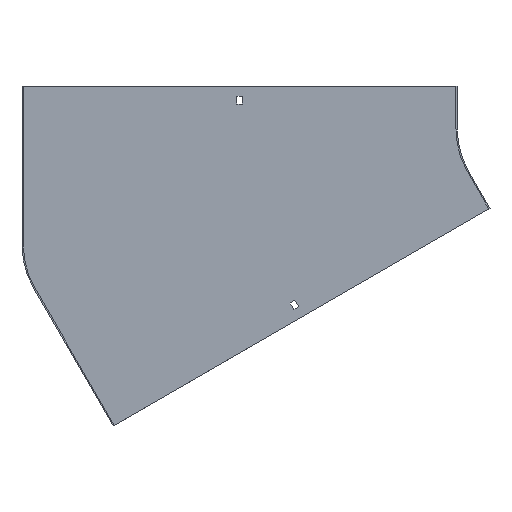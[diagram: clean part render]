
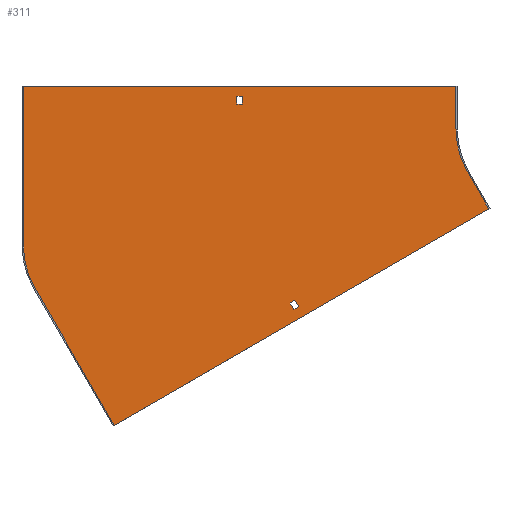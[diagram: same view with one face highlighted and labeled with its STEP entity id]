
A CAD part, front view. The second image highlights one B-rep face of the part: STEP entity #311.
In plain terms, the highlighted planar face has unit normal (0, -1, 0).
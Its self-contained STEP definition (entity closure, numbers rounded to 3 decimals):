
#2 = LINE ( 'NONE', #411, #21 ) ;
#11 = AXIS2_PLACEMENT_3D ( 'NONE', #192, #456, #723 ) ;
#19 = EDGE_LOOP ( 'NONE', ( #736, #415, #662, #837 ) ) ;
#21 = VECTOR ( 'NONE', #472, 1000. ) ;
#29 = FACE_BOUND ( 'NONE', #639, .T. ) ;
#30 = LINE ( 'NONE', #438, #626 ) ;
#38 = DIRECTION ( 'NONE',  ( 0.5, 0., -0.866 ) ) ;
#50 = VERTEX_POINT ( 'NONE', #228 ) ;
#51 = DIRECTION ( 'NONE',  ( -0.866, 0., -0.5 ) ) ;
#52 = CIRCLE ( 'NONE', #11, 100. ) ;
#53 = CARTESIAN_POINT ( 'NONE',  ( 14.5, -1.5, -25.115 ) ) ;
#61 = CARTESIAN_POINT ( 'NONE',  ( -283.026, -1.5, -207.284 ) ) ;
#68 = ORIENTED_EDGE ( 'NONE', *, *, #528, .T. ) ;
#80 = VERTEX_POINT ( 'NONE', #698 ) ;
#89 = DIRECTION ( 'NONE',  ( 0., 0., -1. ) ) ;
#96 = CARTESIAN_POINT ( 'NONE',  ( 19., -1.5, -32.909 ) ) ;
#97 = EDGE_CURVE ( 'NONE', #522, #296, #724, .T. ) ;
#113 = VERTEX_POINT ( 'NONE', #163 ) ;
#118 = CARTESIAN_POINT ( 'NONE',  ( -86.603, -1.5, -50. ) ) ;
#120 = LINE ( 'NONE', #340, #431 ) ;
#124 = VECTOR ( 'NONE', #564, 1000. ) ;
#126 = CARTESIAN_POINT ( 'NONE',  ( -100., -1.5, 0. ) ) ;
#128 = LINE ( 'NONE', #329, #859 ) ;
#131 = EDGE_CURVE ( 'NONE', #80, #146, #255, .T. ) ;
#139 = VECTOR ( 'NONE', #679, 1000. ) ;
#146 = VERTEX_POINT ( 'NONE', #520 ) ;
#147 = ORIENTED_EDGE ( 'NONE', *, *, #416, .T. ) ;
#162 = DIRECTION ( 'NONE',  ( 1., 0., 0. ) ) ;
#163 = CARTESIAN_POINT ( 'NONE',  ( -288.656, -1.5, -210.534 ) ) ;
#167 = CARTESIAN_POINT ( 'NONE',  ( -307.656, -1.5, -177.625 ) ) ;
#175 = LINE ( 'NONE', #374, #530 ) ;
#191 = EDGE_CURVE ( 'NONE', #392, #493, #175, .T. ) ;
#192 = CARTESIAN_POINT ( 'NONE',  ( -504., -1.5, -135.046 ) ) ;
#196 = EDGE_CURVE ( 'NONE', #146, #113, #384, .T. ) ;
#201 = ORIENTED_EDGE ( 'NONE', *, *, #743, .F. ) ;
#209 = VERTEX_POINT ( 'NONE', #443 ) ;
#224 = ORIENTED_EDGE ( 'NONE', *, *, #97, .F. ) ;
#228 = CARTESIAN_POINT ( 'NONE',  ( -61.603, -1.5, -93.301 ) ) ;
#233 = CARTESIAN_POINT ( 'NONE',  ( -86.603, -1.5, -50. ) ) ;
#237 = DIRECTION ( 'NONE',  ( 0., 0., -1. ) ) ;
#255 = LINE ( 'NONE', #53, #306 ) ;
#266 = VECTOR ( 'NONE', #51, 1000. ) ;
#286 = CARTESIAN_POINT ( 'NONE',  ( -498.079, -1.5, -345.301 ) ) ;
#292 = ORIENTED_EDGE ( 'NONE', *, *, #533, .F. ) ;
#296 = VERTEX_POINT ( 'NONE', #233 ) ;
#303 = PLANE ( 'NONE',  #419 ) ;
#306 = VECTOR ( 'NONE', #852, 1000. ) ;
#311 = ADVANCED_FACE ( 'NONE', ( #696, #636, #29 ), #303, .T. ) ;
#317 = ORIENTED_EDGE ( 'NONE', *, *, #550, .T. ) ;
#319 = ORIENTED_EDGE ( 'NONE', *, *, #435, .F. ) ;
#326 = EDGE_CURVE ( 'NONE', #50, #754, #733, .T. ) ;
#329 = CARTESIAN_POINT ( 'NONE',  ( -100., -1.5, 50. ) ) ;
#333 = ORIENTED_EDGE ( 'NONE', *, *, #326, .F. ) ;
#337 = VECTOR ( 'NONE', #855, 1000. ) ;
#340 = CARTESIAN_POINT ( 'NONE',  ( -498.079, -1.5, -345.301 ) ) ;
#341 = CARTESIAN_POINT ( 'NONE',  ( -348.75, -1.5, 38. ) ) ;
#349 = AXIS2_PLACEMENT_3D ( 'NONE', #776, #444, #621 ) ;
#371 = DIRECTION ( 'NONE',  ( 0.866, 0., 0.5 ) ) ;
#374 = CARTESIAN_POINT ( 'NONE',  ( 0., -1.5, 38. ) ) ;
#384 = LINE ( 'NONE', #167, #684 ) ;
#388 = DIRECTION ( 'NONE',  ( 0.5, 0., -0.866 ) ) ;
#392 = VERTEX_POINT ( 'NONE', #785 ) ;
#395 = LINE ( 'NONE', #814, #139 ) ;
#411 = CARTESIAN_POINT ( 'NONE',  ( -604., -1.5, -135.046 ) ) ;
#415 = ORIENTED_EDGE ( 'NONE', *, *, #549, .F. ) ;
#416 = EDGE_CURVE ( 'NONE', #594, #392, #464, .T. ) ;
#419 = AXIS2_PLACEMENT_3D ( 'NONE', #569, #830, #237 ) ;
#431 = VECTOR ( 'NONE', #728, 1000. ) ;
#435 = EDGE_CURVE ( 'NONE', #296, #50, #805, .T. ) ;
#438 = CARTESIAN_POINT ( 'NONE',  ( -348.75, -1.5, 0. ) ) ;
#441 = EDGE_CURVE ( 'NONE', #657, #80, #596, .T. ) ;
#442 = CARTESIAN_POINT ( 'NONE',  ( -590.603, -1.5, -185.046 ) ) ;
#443 = CARTESIAN_POINT ( 'NONE',  ( -100., -1.5, 50. ) ) ;
#444 = DIRECTION ( 'NONE',  ( 0., -1., 0. ) ) ;
#456 = DIRECTION ( 'NONE',  ( 0., 1., 0. ) ) ;
#464 = LINE ( 'NONE', #722, #601 ) ;
#472 = DIRECTION ( 'NONE',  ( 0., 0., 1. ) ) ;
#486 = ORIENTED_EDGE ( 'NONE', *, *, #686, .F. ) ;
#493 = VERTEX_POINT ( 'NONE', #341 ) ;
#503 = EDGE_CURVE ( 'NONE', #612, #669, #52, .T. ) ;
#508 = LINE ( 'NONE', #631, #124 ) ;
#517 = CARTESIAN_POINT ( 'NONE',  ( -348.75, -1.5, 29. ) ) ;
#520 = CARTESIAN_POINT ( 'NONE',  ( -293.156, -1.5, -202.74 ) ) ;
#522 = VERTEX_POINT ( 'NONE', #126 ) ;
#525 = DIRECTION ( 'NONE',  ( 0., 0., -1. ) ) ;
#528 = EDGE_CURVE ( 'NONE', #712, #594, #395, .T. ) ;
#530 = VECTOR ( 'NONE', #162, 1000. ) ;
#533 = EDGE_CURVE ( 'NONE', #611, #209, #508, .T. ) ;
#549 = EDGE_CURVE ( 'NONE', #113, #657, #766, .T. ) ;
#550 = EDGE_CURVE ( 'NONE', #493, #712, #30, .T. ) ;
#564 = DIRECTION ( 'NONE',  ( 1., 0., 0. ) ) ;
#569 = CARTESIAN_POINT ( 'NONE',  ( 0., -1.5, 0. ) ) ;
#577 = ORIENTED_EDGE ( 'NONE', *, *, #503, .F. ) ;
#594 = VERTEX_POINT ( 'NONE', #842 ) ;
#596 = LINE ( 'NONE', #734, #337 ) ;
#601 = VECTOR ( 'NONE', #664, 1000. ) ;
#611 = VERTEX_POINT ( 'NONE', #827 ) ;
#612 = VERTEX_POINT ( 'NONE', #442 ) ;
#614 = VECTOR ( 'NONE', #371, 1000. ) ;
#621 = DIRECTION ( 'NONE',  ( 0., 0., -1. ) ) ;
#626 = VECTOR ( 'NONE', #89, 1000. ) ;
#631 = CARTESIAN_POINT ( 'NONE',  ( -605.5, -1.5, 50. ) ) ;
#636 = FACE_OUTER_BOUND ( 'NONE', #779, .T. ) ;
#639 = EDGE_LOOP ( 'NONE', ( #680, #317, #68, #147 ) ) ;
#644 = ORIENTED_EDGE ( 'NONE', *, *, #757, .F. ) ;
#657 = VERTEX_POINT ( 'NONE', #61 ) ;
#662 = ORIENTED_EDGE ( 'NONE', *, *, #196, .F. ) ;
#664 = DIRECTION ( 'NONE',  ( 0., 0., 1. ) ) ;
#669 = VERTEX_POINT ( 'NONE', #796 ) ;
#679 = DIRECTION ( 'NONE',  ( -1., 0., 0. ) ) ;
#680 = ORIENTED_EDGE ( 'NONE', *, *, #191, .T. ) ;
#684 = VECTOR ( 'NONE', #38, 1000. ) ;
#686 = EDGE_CURVE ( 'NONE', #754, #612, #120, .T. ) ;
#696 = FACE_BOUND ( 'NONE', #19, .T. ) ;
#698 = CARTESIAN_POINT ( 'NONE',  ( -287.526, -1.5, -199.49 ) ) ;
#709 = VECTOR ( 'NONE', #388, 1000. ) ;
#712 = VERTEX_POINT ( 'NONE', #517 ) ;
#716 = CARTESIAN_POINT ( 'NONE',  ( -60.304, -1.5, -92.551 ) ) ;
#722 = CARTESIAN_POINT ( 'NONE',  ( -355.25, -1.5, 0. ) ) ;
#723 = DIRECTION ( 'NONE',  ( 0., 0., -1. ) ) ;
#724 = CIRCLE ( 'NONE', #349, 100. ) ;
#728 = DIRECTION ( 'NONE',  ( -0.5, 0., 0.866 ) ) ;
#733 = LINE ( 'NONE', #716, #266 ) ;
#734 = CARTESIAN_POINT ( 'NONE',  ( -302.026, -1.5, -174.375 ) ) ;
#736 = ORIENTED_EDGE ( 'NONE', *, *, #441, .F. ) ;
#743 = EDGE_CURVE ( 'NONE', #209, #522, #128, .T. ) ;
#754 = VERTEX_POINT ( 'NONE', #286 ) ;
#757 = EDGE_CURVE ( 'NONE', #669, #611, #2, .T. ) ;
#766 = LINE ( 'NONE', #96, #614 ) ;
#776 = CARTESIAN_POINT ( 'NONE',  ( 0., -1.5, 0. ) ) ;
#779 = EDGE_LOOP ( 'NONE', ( #292, #644, #577, #486, #333, #319, #224, #201 ) ) ;
#785 = CARTESIAN_POINT ( 'NONE',  ( -355.25, -1.5, 38. ) ) ;
#796 = CARTESIAN_POINT ( 'NONE',  ( -604., -1.5, -135.046 ) ) ;
#805 = LINE ( 'NONE', #118, #709 ) ;
#814 = CARTESIAN_POINT ( 'NONE',  ( 0., -1.5, 29. ) ) ;
#827 = CARTESIAN_POINT ( 'NONE',  ( -604., -1.5, 50. ) ) ;
#830 = DIRECTION ( 'NONE',  ( 0., -1., 0. ) ) ;
#837 = ORIENTED_EDGE ( 'NONE', *, *, #131, .F. ) ;
#842 = CARTESIAN_POINT ( 'NONE',  ( -355.25, -1.5, 29. ) ) ;
#852 = DIRECTION ( 'NONE',  ( -0.866, 0., -0.5 ) ) ;
#855 = DIRECTION ( 'NONE',  ( -0.5, 0., 0.866 ) ) ;
#859 = VECTOR ( 'NONE', #525, 1000. ) ;
